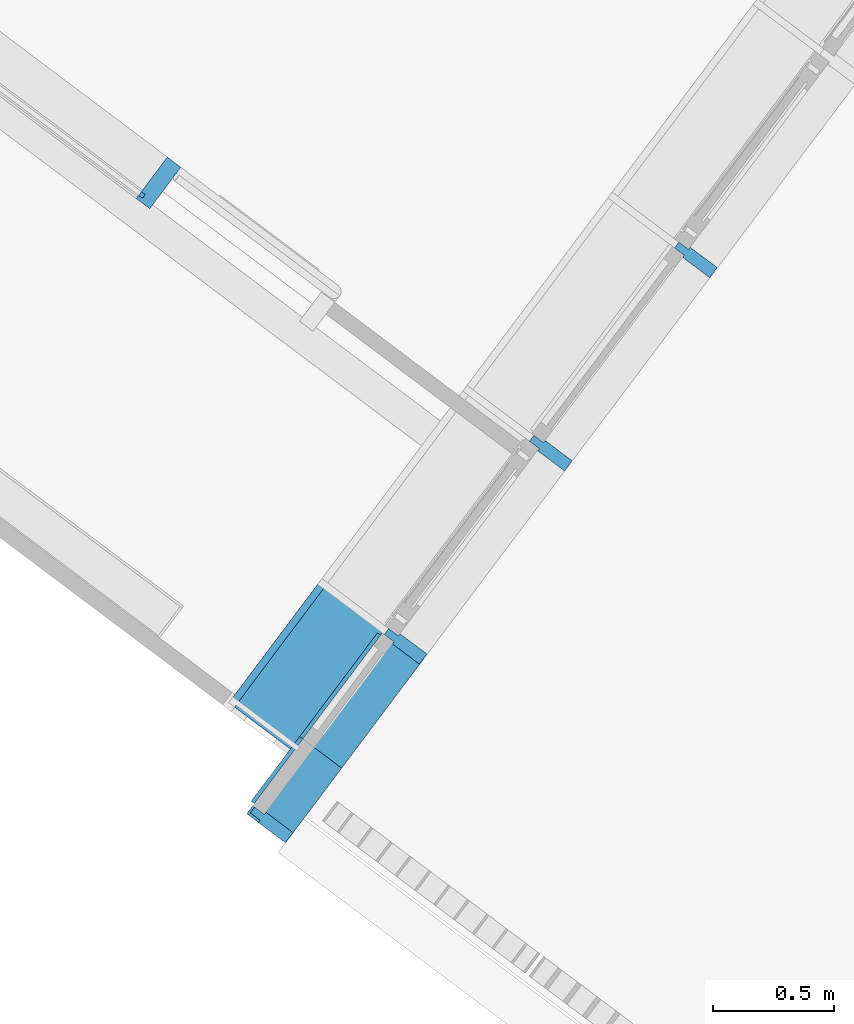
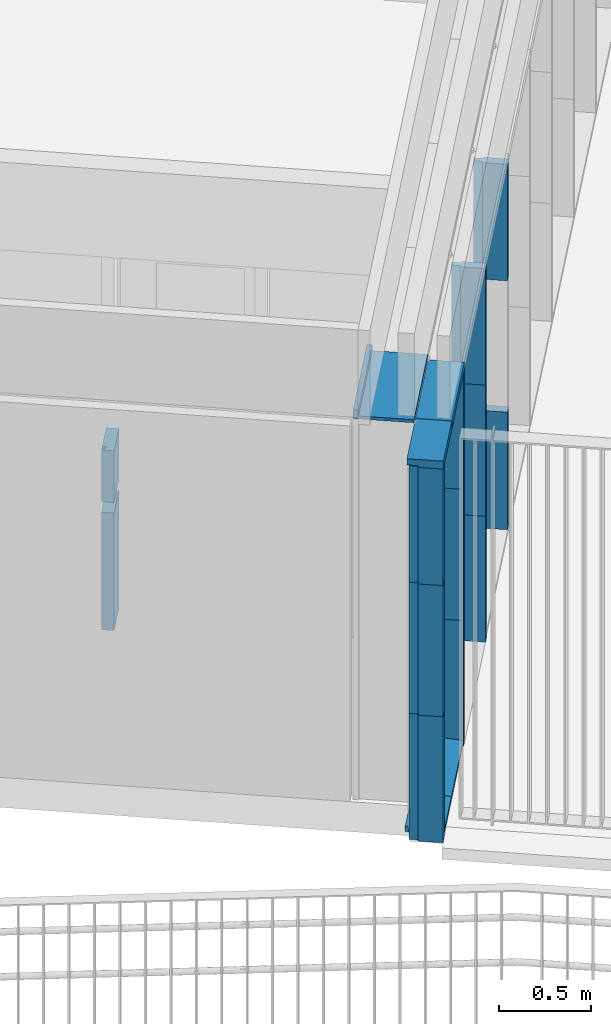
# One storey, part 80 of 243: 18 members, 3 elements without a shape of their own.
"""IFC2X3 building model written with IfcOpenShell, lengths in metres."""

from ifc_helpers import new_model, entity, si_unit, converted_unit, derived_unit, direction, frame, frame_2d, origin, place, context, subcontext, project, spatial, polyline, circle_curve, parameter, trimmed, segment, composite_curve, rectangle, outline, extrude, source, transform, mapped, material, type_object, type_shapes, element, aggregate, save


model = new_model("IFC2X3")

# Units and contexts
model_context = context("Model", 3, precision=1e-05, world=origin(), true_north=direction((6.123031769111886e-17, 1.0)))
body_context = subcontext(model_context, "Body", "Model", "MODEL_VIEW")
ifc_project = project(units=[si_unit("LENGTHUNIT", "METRE"), si_unit("AREAUNIT", "SQUARE_METRE"), si_unit("VOLUMEUNIT", "CUBIC_METRE"), converted_unit("PLANEANGLEUNIT", "DEGREE", entity("IfcRatioMeasure", 0.017453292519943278), si_unit("PLANEANGLEUNIT", "RADIAN"), dimensions=[0, 0, 0, 0, 0, 0, 0]), si_unit("MASSUNIT", "GRAM", prefix="KILO"), derived_unit("MASSDENSITYUNIT", [(si_unit("MASSUNIT", "GRAM", prefix="KILO"), 1), (si_unit("LENGTHUNIT", "METRE"), -3)]), derived_unit("IONCONCENTRATIONUNIT", [(si_unit("MASSUNIT", "GRAM", prefix="KILO"), 1), (si_unit("LENGTHUNIT", "METRE"), -3)]), derived_unit("MOMENTOFINERTIAUNIT", [(si_unit("LENGTHUNIT", "METRE"), 4)]), si_unit("TIMEUNIT", "SECOND"), si_unit("FREQUENCYUNIT", "HERTZ"), si_unit("THERMODYNAMICTEMPERATUREUNIT", "DEGREE_CELSIUS"), derived_unit("THERMALTRANSMITTANCEUNIT", [(si_unit("MASSUNIT", "GRAM", prefix="KILO"), 1), (si_unit("THERMODYNAMICTEMPERATUREUNIT", "KELVIN"), -1), (si_unit("TIMEUNIT", "SECOND"), -3)]), derived_unit("THERMALCONDUCTANCEUNIT", [(si_unit("MASSUNIT", "GRAM", prefix="KILO"), 1), (si_unit("THERMODYNAMICTEMPERATUREUNIT", "KELVIN"), -1), (si_unit("TIMEUNIT", "SECOND"), -3), (si_unit("LENGTHUNIT", "METRE"), 1)]), derived_unit("VOLUMETRICFLOWRATEUNIT", [(si_unit("LENGTHUNIT", "METRE"), 3), (si_unit("TIMEUNIT", "SECOND"), -1)]), derived_unit("MASSFLOWRATEUNIT", [(si_unit("MASSUNIT", "GRAM", prefix="KILO"), 1), (si_unit("TIMEUNIT", "SECOND"), -1)]), derived_unit("ROTATIONALFREQUENCYUNIT", [(si_unit("TIMEUNIT", "SECOND"), -1)]), si_unit("ELECTRICCURRENTUNIT", "AMPERE"), si_unit("ELECTRICVOLTAGEUNIT", "VOLT"), si_unit("POWERUNIT", "WATT"), si_unit("FORCEUNIT", "NEWTON", prefix="KILO"), si_unit("ILLUMINANCEUNIT", "LUX"), si_unit("LUMINOUSFLUXUNIT", "LUMEN"), si_unit("LUMINOUSINTENSITYUNIT", "CANDELA"), derived_unit("USERDEFINED", [(si_unit("MASSUNIT", "GRAM", prefix="KILO"), -1), (si_unit("LENGTHUNIT", "METRE"), -2), (si_unit("TIMEUNIT", "SECOND"), 3), (si_unit("LUMINOUSFLUXUNIT", "LUMEN"), 1)]), derived_unit("USERDEFINED", [(si_unit("MASSUNIT", "GRAM", prefix="KILO"), 1), (si_unit("TIMEUNIT", "SECOND"), -3), (si_unit("LENGTHUNIT", "METRE"), 3), (si_unit("ELECTRICCURRENTUNIT", "AMPERE"), -2)]), derived_unit("SOUNDPOWERUNIT", [(si_unit("MASSUNIT", "GRAM", prefix="KILO"), 1), (si_unit("TIMEUNIT", "SECOND"), -3), (si_unit("LENGTHUNIT", "METRE"), 2)]), derived_unit("SOUNDPRESSUREUNIT", [(si_unit("MASSUNIT", "GRAM", prefix="KILO"), 1), (si_unit("LENGTHUNIT", "METRE"), -1), (si_unit("TIMEUNIT", "SECOND"), -2)]), derived_unit("LINEARVELOCITYUNIT", [(si_unit("LENGTHUNIT", "METRE"), 1), (si_unit("TIMEUNIT", "SECOND"), -1)]), si_unit("PRESSUREUNIT", "PASCAL"), derived_unit("USERDEFINED", [(si_unit("MASSUNIT", "GRAM", prefix="KILO"), 1), (si_unit("LENGTHUNIT", "METRE"), -2), (si_unit("TIMEUNIT", "SECOND"), -2)]), derived_unit("LINEARFORCEUNIT", [(si_unit("MASSUNIT", "GRAM", prefix="KILO"), 1), (si_unit("TIMEUNIT", "SECOND"), -2)]), derived_unit("PLANARFORCEUNIT", [(si_unit("MASSUNIT", "GRAM", prefix="KILO"), 1), (si_unit("LENGTHUNIT", "METRE"), -1), (si_unit("TIMEUNIT", "SECOND"), -2)]), derived_unit("SPECIFICHEATCAPACITYUNIT", [(si_unit("THERMODYNAMICTEMPERATUREUNIT", "KELVIN"), -1), (si_unit("LENGTHUNIT", "METRE"), 2), (si_unit("TIMEUNIT", "SECOND"), -2)]), derived_unit("HEATINGVALUEUNIT", [(si_unit("LENGTHUNIT", "METRE"), 2), (si_unit("TIMEUNIT", "SECOND"), -2)]), derived_unit("VAPORPERMEABILITYUNIT", [(si_unit("LENGTHUNIT", "METRE"), -1), (si_unit("TIMEUNIT", "SECOND"), 1)]), derived_unit("DYNAMICVISCOSITYUNIT", [(si_unit("MASSUNIT", "GRAM", prefix="KILO"), 1), (si_unit("TIMEUNIT", "SECOND"), -1), (si_unit("LENGTHUNIT", "METRE"), -1)]), derived_unit("THERMALEXPANSIONCOEFFICIENTUNIT", [(si_unit("THERMODYNAMICTEMPERATUREUNIT", "KELVIN"), -1)]), derived_unit("MODULUSOFELASTICITYUNIT", [(si_unit("MASSUNIT", "GRAM", prefix="KILO"), 1), (si_unit("LENGTHUNIT", "METRE"), -1), (si_unit("TIMEUNIT", "SECOND"), -2)]), derived_unit("ISOTHERMALMOISTURECAPACITYUNIT", [(si_unit("LENGTHUNIT", "METRE"), 3), (si_unit("MASSUNIT", "GRAM", prefix="KILO"), -1)]), derived_unit("MOISTUREDIFFUSIVITYUNIT", [(si_unit("TIMEUNIT", "SECOND"), -1), (si_unit("LENGTHUNIT", "METRE"), 2)])], contexts=[model_context])

# Site, building, storey
site_placement = place(None, frame((0.0, 0.0, 235.0), z_axis=(0.0, 0.0, 1.0), x_axis=(-0.7996477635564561, 0.6004693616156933, 0.0)))
site = spatial("IfcSite", under=ifc_project, at=site_placement, Name="Default", CompositionType="ELEMENT")
building_placement = place(site_placement, origin())
building = spatial("IfcBuilding", under=site, at=building_placement, CompositionType="ELEMENT")
storey_placement = place(building_placement, origin())
storey = spatial("IfcBuildingStorey", under=building, at=storey_placement, Name="P0- Escola", CompositionType="ELEMENT", Elevation=0.0)

# Curtain wall, members
curtain_wall_type_1 = type_object("IfcCurtainWallType", Name="Muro cortina:MC- INT- k1", PredefinedType="NOTDEFINED")
curtain_wall_1_placement = place(storey_placement, origin())
curtain_wall_1 = element("IfcCurtainWall", 1, at=curtain_wall_1_placement, inside=storey, type_object=curtain_wall_type_1, Name="Muro cortina:MC- INT- k1", ObjectType="Muro cortina:MC- INT- k1")
ifc_material_1 = material(Name="_Fusta massisa- T1")
member_type_1 = type_object("IfcMemberType", Name="Montante rectangular:MC- Fusta- 21,4x7 cm- Neutre- Bany infantil", PredefinedType="MULLION", material=ifc_material_1)
shared_shape_1 = source(origin(), body_context, "Body", "SweptSolid", [
    extrude(rectangle(XDim=0.21400000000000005, YDim=0.06999999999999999, at=frame_2d((-5.551115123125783e-17, 0.0), x_axis=(1.0, 0.0))), frame((0.0, -0.08099999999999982, -0.7849999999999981), z_axis=(0.0, 0.0, 1.0), x_axis=(0.0, -1.0, 0.0)), (0.0, 0.0, 1.0), 0.7849999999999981),
])
type_shapes(member_type_1, [shared_shape_1])
member_1_placement = place(curtain_wall_1_placement, frame((7.804147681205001, -19.827191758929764, 0.0), z_axis=(0.0, 0.0, -1.0), x_axis=(-1.0, 0.0, 0.0)))
member_1 = element("IfcMember", 2, at=member_1_placement, type_object=member_type_1, material=ifc_material_1, Name="Montante rectangular:MC- Fusta- 21,4x7 cm- Neutre- Bany infantil", ObjectType="Montante rectangular:MC- Fusta- 21,4x7 cm- Neutre- Bany infantil", context=body_context, shape_type="MappedRepresentation", body=[
    mapped(shared_shape_1, transform((0.0, 0.0, 0.0), scale=1.0)),
])
member_type_2 = type_object("IfcMemberType", Name="Montante rectangular:MC- Fusta- 21,4x7 cm- Esquerra- Bany infantil", PredefinedType="MULLION", material=ifc_material_1)
shared_shape_2 = source(origin(), body_context, "Body", "SweptSolid", [
    extrude(outline(polyline([(-0.06649999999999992, -0.02249999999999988), (-0.05049999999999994, -0.02249999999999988), (-0.050499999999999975, -0.0024999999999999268), (-0.030499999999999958, -0.002499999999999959), (-0.030499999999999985, -0.022499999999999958), (0.14749999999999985, -0.022500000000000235), (0.14749999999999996, 0.04749999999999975), (-0.06650000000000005, 0.04750000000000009), (-0.06649999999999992, -0.02249999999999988)])), frame((-0.012500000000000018, -0.04049999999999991, -0.3450000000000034), z_axis=(0.0, 0.0, 1.0), x_axis=(0.0, -1.0, 0.0)), (0.0, 0.0, 1.0), 0.34500000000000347),
])
type_shapes(member_type_2, [shared_shape_2])
member_2_placement = place(curtain_wall_1_placement, frame((7.804147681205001, -19.827191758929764, 0.8549999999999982), z_axis=(0.0, 0.0, -1.0), x_axis=(-1.0, 0.0, 0.0)))
member_2 = element("IfcMember", 3, at=member_2_placement, type_object=member_type_2, material=ifc_material_1, Name="Montante rectangular:MC- Fusta- 21,4x7 cm- Esquerra- Bany infantil", ObjectType="Montante rectangular:MC- Fusta- 21,4x7 cm- Esquerra- Bany infantil", context=body_context, shape_type="MappedRepresentation", body=[
    mapped(shared_shape_2, transform((0.0, 0.0, 0.0), scale=1.0)),
])
aggregate(curtain_wall_1, [member_1, member_2])

curtain_wall_type_2 = type_object("IfcCurtainWallType", Name="Muro cortina:MC- EXT- MC2", PredefinedType="NOTDEFINED")
curtain_wall_2_placement = place(storey_placement, origin())
curtain_wall_2 = element("IfcCurtainWall", 4, at=curtain_wall_2_placement, inside=storey, type_object=curtain_wall_type_2, Name="Muro cortina:MC- EXT- MC2", ObjectType="Muro cortina:MC- EXT- MC2")
ifc_material_2 = material(Name="_Alumini- T1- Perfil")
member_type_3 = type_object("IfcMemberType", Name="Montante rectangular:MC- Alu- 140x52,5 cm- Fa patis- Superior", PredefinedType="MULLION", material=ifc_material_2)
shared_shape_3 = source(origin(), body_context, "Body", "SweptSolid", [
    extrude(outline(polyline([(-0.11366666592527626, -0.021249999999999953), (0.026333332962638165, -0.021249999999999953), (0.026333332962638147, -0.010000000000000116), (0.0873333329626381, -0.010000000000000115), (0.0873333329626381, 0.03125000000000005), (-0.11366666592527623, 0.031250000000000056), (-0.11366666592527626, -0.021249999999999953)])), frame((-0.031250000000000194, 0.02733333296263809, -0.5633345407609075), z_axis=(0.0, 0.0, 1.0), x_axis=(0.0, -1.0, 0.0)), (0.0, 0.0, 1.0), 0.5633345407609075),
])
type_shapes(member_type_3, [shared_shape_3])
member_3_placement = place(curtain_wall_2_placement, frame((5.885147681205, -18.990191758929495, 2.525), z_axis=(0.0, -1.0, 0.0), x_axis=(0.0, 0.0, 1.0)))
member_3 = element("IfcMember", 5, at=member_3_placement, type_object=member_type_3, material=ifc_material_2, Name="Montante rectangular:MC- Alu- 140x52,5 cm- Fa patis- Superior", ObjectType="Montante rectangular:MC- Alu- 140x52,5 cm- Fa patis- Superior", context=body_context, shape_type="MappedRepresentation", body=[
    mapped(shared_shape_3, transform((0.0, 0.0, 0.0), scale=1.0)),
])
member_type_4 = type_object("IfcMemberType", Name="Montante rectangular:MC- Alu- 140x52,5 cm- Fa patis- Centre", PredefinedType="MULLION", material=ifc_material_2)
shared_shape_4 = source(origin(), body_context, "Body", "SweptSolid", [
    extrude(outline(polyline([(-0.11699999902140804, -0.026250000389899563), (0.021999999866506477, -0.026250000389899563), (0.021999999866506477, -0.01500000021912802), (0.07299999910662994, -0.01500000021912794), (0.07299999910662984, 0.015000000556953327), (0.02200000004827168, 0.015000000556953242), (0.02200000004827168, 0.026250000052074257), (-0.11699999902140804, 0.026250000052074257), (-0.11699999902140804, -0.026250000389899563)])), frame((0.0, 0.022999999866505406, -0.839999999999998), z_axis=(0.0, 0.0, 1.0), x_axis=(0.0, -1.0, 0.0)), (0.0, 0.0, 1.0), 0.839999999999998),
])
type_shapes(member_type_4, [shared_shape_4])
member_4_placement = place(curtain_wall_2_placement, frame((5.885147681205, -18.990191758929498, -0.02), z_axis=(0.0, 0.0, -1.0), x_axis=(0.0, -1.0, 0.0)))
member_4 = element("IfcMember", 6, at=member_4_placement, type_object=member_type_4, material=ifc_material_2, Name="Montante rectangular:MC- Alu- 140x52,5 cm- Fa patis- Centre", ObjectType="Montante rectangular:MC- Alu- 140x52,5 cm- Fa patis- Centre", context=body_context, shape_type="MappedRepresentation", body=[
    mapped(shared_shape_4, transform((0.0, 0.0, 0.0), scale=1.0)),
])
member_5_placement = place(curtain_wall_2_placement, frame((5.8851476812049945, -19.990191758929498, -0.02), z_axis=(0.0, 0.0, -1.0), x_axis=(0.0, -1.0, 0.0)))
member_5 = element("IfcMember", 7, at=member_5_placement, type_object=member_type_4, material=ifc_material_2, Name="Montante rectangular:MC- Alu- 140x52,5 cm- Fa patis- Centre", ObjectType="Montante rectangular:MC- Alu- 140x52,5 cm- Fa patis- Centre", context=body_context, shape_type="MappedRepresentation", body=[
    mapped(shared_shape_4, transform((0.0, 0.0, 0.0), scale=1.0)),
])
member_type_5 = type_object("IfcMemberType", Name="Montante rectangular:MC- Alu- 140x52,5 cm- Fa patis- Centre", PredefinedType="MULLION", material=ifc_material_2)
shared_shape_5 = source(origin(), body_context, "Body", "SweptSolid", [
    extrude(outline(polyline([(-0.11699999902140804, -0.026250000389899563), (0.021999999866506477, -0.026250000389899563), (0.021999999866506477, -0.01500000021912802), (0.07299999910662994, -0.01500000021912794), (0.07299999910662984, 0.015000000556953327), (0.02200000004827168, 0.015000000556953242), (0.02200000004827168, 0.026250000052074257), (-0.11699999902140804, 0.026250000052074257), (-0.11699999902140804, -0.026250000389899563)])), frame((0.0, 0.022999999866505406, -0.7849999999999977), z_axis=(0.0, 0.0, 1.0), x_axis=(0.0, -1.0, 0.0)), (0.0, 0.0, 1.0), 0.7849999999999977),
])
type_shapes(member_type_5, [shared_shape_5])
member_6_placement = place(curtain_wall_2_placement, frame((5.885147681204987, -20.990191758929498, 0.035000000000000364), z_axis=(0.0, 0.0, -1.0), x_axis=(0.0, -1.0, 0.0)))
member_6 = element("IfcMember", 8, at=member_6_placement, type_object=member_type_5, material=ifc_material_2, Name="Montante rectangular:MC- Alu- 140x52,5 cm- Fa patis- Centre", ObjectType="Montante rectangular:MC- Alu- 140x52,5 cm- Fa patis- Centre", context=body_context, shape_type="MappedRepresentation", body=[
    mapped(shared_shape_5, transform((0.0, 0.0, 0.0), scale=1.0)),
])
member_type_6 = type_object("IfcMemberType", Name="Montante rectangular:MC- Alu- 140x52,5 cm- Fa patis- inferior", PredefinedType="MULLION", material=ifc_material_2)
shared_shape_6 = source(origin(), body_context, "Body", "SweptSolid", [
    extrude(outline(composite_curve([segment(polyline([(0.12786724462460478, -0.025867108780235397), (0.14416724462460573, -0.0258671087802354)]), True, "CONTINUOUS"), segment(polyline([(0.14416724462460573, -0.0258671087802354), (0.14416724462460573, 0.009132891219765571)]), True, "CONTINUOUS"), segment(polyline([(0.14416724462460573, 0.009132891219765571), (0.06786724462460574, 0.009132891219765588)]), True, "CONTINUOUS"), segment(polyline([(0.06786724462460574, 0.009132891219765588), (0.06786724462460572, -0.021159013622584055)]), True, "CONTINUOUS"), segment(polyline([(0.06786724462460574, -0.021159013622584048), (-0.030132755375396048, -0.012332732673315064)]), True, "CONTINUOUS"), segment(polyline([(-0.030132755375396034, -0.012332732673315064), (-0.030132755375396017, 0.027132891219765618)]), True, "CONTINUOUS"), segment(polyline([(-0.03013275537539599, 0.027132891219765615), (-0.0021327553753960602, 0.027132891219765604)]), True, "CONTINUOUS"), segment(polyline([(-0.0021327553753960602, 0.027132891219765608), (-0.002132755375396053, 0.0291328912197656)]), True, "CONTINUOUS"), segment(polyline([(-0.002132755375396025, 0.0291328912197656), (-0.03213275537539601, 0.02913289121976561)]), True, "CONTINUOUS"), segment(polyline([(-0.03213275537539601, 0.02913289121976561), (-0.03213275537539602, -0.012152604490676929)]), True, "CONTINUOUS"), segment(polyline([(-0.03213275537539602, -0.012152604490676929), (-0.07013275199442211, -0.008730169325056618)]), True, "CONTINUOUS"), segment(polyline([(-0.07013275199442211, -0.008730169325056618), (-0.07013275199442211, 0.0057663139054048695)]), True, "CONTINUOUS"), segment(trimmed(circle_curve(frame_2d((-0.06963275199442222, 0.005766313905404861), x_axis=(-1.0, 0.0)), 0.0004999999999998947), [parameter(270.0000000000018)], [parameter(0.0)], True, "PARAMETER"), False, "CONTINUOUS"), segment(polyline([(-0.06963275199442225, 0.006266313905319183), (-0.06213275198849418, 0.00626631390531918)]), True, "CONTINUOUS"), segment(polyline([(-0.06213275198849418, 0.00626631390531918), (-0.062132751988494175, 0.008266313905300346)]), True, "CONTINUOUS"), segment(polyline([(-0.062132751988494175, 0.008266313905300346), (-0.07013275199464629, 0.008266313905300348)]), True, "CONTINUOUS"), segment(trimmed(circle_curve(frame_2d((-0.07013275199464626, 0.0062663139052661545), x_axis=(0.0, 1.0)), 0.0020000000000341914), [parameter(0.0)], [parameter(90.00000002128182)], True, "PARAMETER"), True, "CONTINUOUS"), segment(polyline([(-0.07213275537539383, 0.006266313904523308), (-0.07213275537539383, -0.008730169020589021)]), True, "CONTINUOUS"), segment(trimmed(circle_curve(frame_2d((-0.07013275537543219, -0.008730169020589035), x_axis=(-1.0, 0.0)), 0.001999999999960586), [parameter(0.0)], [parameter(84.85359280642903)], True, "PARAMETER"), True, "CONTINUOUS"), segment(polyline([(-0.07031215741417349, -0.010722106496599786), (0.06786724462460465, -0.02316710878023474)]), True, "CONTINUOUS"), segment(polyline([(0.06786724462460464, -0.023167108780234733), (0.12786724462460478, -0.02316710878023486)]), True, "CONTINUOUS"), segment(polyline([(0.12786724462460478, -0.02316710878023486), (0.12786724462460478, -0.025867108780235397)]), True, "CONTINUOUS")], self_intersect=False)), frame((-0.02913289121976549, 0.06786724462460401, -0.33416726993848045), z_axis=(0.0, 0.0, 1.0), x_axis=(0.0, -1.0, 0.0)), (0.0, 0.0, 1.0), 0.3341672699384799),
])
type_shapes(member_type_6, [shared_shape_6])
member_7_placement = place(curtain_wall_2_placement, frame((5.885147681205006, -18.092689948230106, -0.019999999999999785), z_axis=(0.0, 1.0, 0.0), x_axis=(0.0, 0.0, -1.0)))
member_7 = element("IfcMember", 9, at=member_7_placement, type_object=member_type_6, material=ifc_material_2, Name="Montante rectangular:MC- Alu- 140x52,5 cm- Fa patis- inferior", ObjectType="Montante rectangular:MC- Alu- 140x52,5 cm- Fa patis- inferior", context=body_context, shape_type="MappedRepresentation", body=[
    mapped(shared_shape_6, transform((0.0, 0.0, 0.0), scale=1.0)),
])
member_type_7 = type_object("IfcMemberType", Name="Montante rectangular:MC- Alu- 140x52,5 cm- Fa patis- Centre", PredefinedType="MULLION", material=ifc_material_2)
shared_shape_7 = source(origin(), body_context, "Body", "SweptSolid", [
    extrude(outline(polyline([(-0.11699999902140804, -0.026250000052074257), (0.02200000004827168, -0.026250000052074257), (0.02200000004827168, -0.015000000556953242), (0.07299999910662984, -0.015000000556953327), (0.07299999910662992, 0.01500000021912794), (0.021999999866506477, 0.01500000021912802), (0.021999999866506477, 0.026250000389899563), (-0.11699999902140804, 0.026250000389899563), (-0.11699999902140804, -0.026250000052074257)])), frame((-0.026250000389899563, 0.022999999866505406, -0.7774999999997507), z_axis=(0.0, 0.0, 1.0), x_axis=(0.0, -1.0, 0.0)), (0.0, 0.0, 1.0), 0.7774999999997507),
])
type_shapes(member_type_7, [shared_shape_7])
member_8_placement = place(curtain_wall_2_placement, frame((5.885147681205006, -18.040189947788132, 2.4725), z_axis=(0.0, 0.0, 1.0), x_axis=(0.0, 1.0, 0.0)))
member_8 = element("IfcMember", 10, at=member_8_placement, type_object=member_type_7, material=ifc_material_2, Name="Montante rectangular:MC- Alu- 140x52,5 cm- Fa patis- Centre", ObjectType="Montante rectangular:MC- Alu- 140x52,5 cm- Fa patis- Centre", context=body_context, shape_type="MappedRepresentation", body=[
    mapped(shared_shape_7, transform((0.0, 0.0, 0.0), scale=1.0)),
])
member_type_8 = type_object("IfcMemberType", Name="Montante rectangular:MC- Alu- 140x52,5 cm- Fa patis- Superior", PredefinedType="MULLION", material=ifc_material_2)
shared_shape_8 = source(origin(), body_context, "Body", "SweptSolid", [
    extrude(outline(polyline([(-0.11366666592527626, -0.021249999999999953), (0.026333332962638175, -0.021249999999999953), (0.026333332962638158, -0.010000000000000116), (0.0873333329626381, -0.010000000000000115), (0.0873333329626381, 0.03125000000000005), (-0.11366666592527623, 0.031250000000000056), (-0.11366666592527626, -0.021249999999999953)])), frame((-0.031250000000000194, 0.0273333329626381, -0.38666727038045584), z_axis=(0.0, 0.0, 1.0), x_axis=(0.0, -1.0, 0.0)), (0.0, 0.0, 1.0), 0.38666727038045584),
])
type_shapes(member_type_8, [shared_shape_8])
member_9_placement = place(curtain_wall_2_placement, frame((5.885147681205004, -18.426857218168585, 2.525), z_axis=(0.0, -1.0, 0.0), x_axis=(0.0, 0.0, 1.0)))
member_9 = element("IfcMember", 11, at=member_9_placement, type_object=member_type_8, material=ifc_material_2, Name="Montante rectangular:MC- Alu- 140x52,5 cm- Fa patis- Superior", ObjectType="Montante rectangular:MC- Alu- 140x52,5 cm- Fa patis- Superior", context=body_context, shape_type="MappedRepresentation", body=[
    mapped(shared_shape_8, transform((0.0, 0.0, 0.0), scale=1.0)),
])
member_type_9 = type_object("IfcMemberType", Name="Montante rectangular:MC- Alu- 140x52,5 cm- Fa patis- inferior", PredefinedType="MULLION", material=ifc_material_2)
shared_shape_9 = source(origin(), body_context, "Body", "SweptSolid", [
    extrude(outline(composite_curve([segment(polyline([(0.1278672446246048, -0.025867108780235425), (0.14416724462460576, -0.025867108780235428)]), True, "CONTINUOUS"), segment(polyline([(0.14416724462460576, -0.025867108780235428), (0.1441672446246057, 0.009132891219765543)]), True, "CONTINUOUS"), segment(polyline([(0.1441672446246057, 0.009132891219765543), (0.06786724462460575, 0.00913289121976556)]), True, "CONTINUOUS"), segment(polyline([(0.06786724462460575, 0.00913289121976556), (0.06786724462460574, -0.021159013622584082)]), True, "CONTINUOUS"), segment(polyline([(0.06786724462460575, -0.021159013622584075), (-0.030132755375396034, -0.012332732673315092)]), True, "CONTINUOUS"), segment(polyline([(-0.03013275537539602, -0.012332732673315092), (-0.030132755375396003, 0.02713289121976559)]), True, "CONTINUOUS"), segment(polyline([(-0.030132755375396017, 0.027132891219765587), (-0.0021327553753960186, 0.027132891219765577)]), True, "CONTINUOUS"), segment(polyline([(-0.0021327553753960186, 0.02713289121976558), (-0.0021327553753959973, 0.02913289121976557)]), True, "CONTINUOUS"), segment(polyline([(-0.0021327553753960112, 0.02913289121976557), (-0.032132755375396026, 0.029132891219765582)]), True, "CONTINUOUS"), segment(polyline([(-0.032132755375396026, 0.029132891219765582), (-0.03213275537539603, -0.012152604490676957)]), True, "CONTINUOUS"), segment(polyline([(-0.03213275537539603, -0.012152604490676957), (-0.0701327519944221, -0.008730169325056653)]), True, "CONTINUOUS"), segment(polyline([(-0.0701327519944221, -0.008730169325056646), (-0.0701327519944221, 0.005766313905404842)]), True, "CONTINUOUS"), segment(trimmed(circle_curve(frame_2d((-0.0696327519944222, 0.00576631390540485), x_axis=(-1.0, 0.0)), 0.0004999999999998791), [parameter(269.999999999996)], [parameter(0.0)], True, "PARAMETER"), False, "CONTINUOUS"), segment(polyline([(-0.0696327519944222, 0.0062663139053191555), (-0.06213275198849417, 0.006266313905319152)]), True, "CONTINUOUS"), segment(polyline([(-0.06213275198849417, 0.006266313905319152), (-0.06213275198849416, 0.008266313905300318)]), True, "CONTINUOUS"), segment(polyline([(-0.06213275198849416, 0.008266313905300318), (-0.07013275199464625, 0.00826631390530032)]), True, "CONTINUOUS"), segment(trimmed(circle_curve(frame_2d((-0.07013275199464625, 0.006266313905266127), x_axis=(0.0, 1.0)), 0.0020000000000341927), [parameter(0.0)], [parameter(90.00000002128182)], True, "PARAMETER"), True, "CONTINUOUS"), segment(polyline([(-0.07213275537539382, 0.00626631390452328), (-0.07213275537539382, -0.008730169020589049)]), True, "CONTINUOUS"), segment(trimmed(circle_curve(frame_2d((-0.07013275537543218, -0.00873016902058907), x_axis=(-1.0, 0.0)), 0.001999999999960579), [parameter(0.0)], [parameter(84.85359280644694)], True, "PARAMETER"), True, "CONTINUOUS"), segment(polyline([(-0.07031215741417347, -0.010722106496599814), (0.06786724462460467, -0.023167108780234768)]), True, "CONTINUOUS"), segment(polyline([(0.06786724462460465, -0.02316710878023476), (0.12786724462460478, -0.02316710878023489)]), True, "CONTINUOUS"), segment(polyline([(0.12786724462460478, -0.02316710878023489), (0.1278672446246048, -0.025867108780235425)]), True, "CONTINUOUS")], self_intersect=False)), frame((-0.029132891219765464, 0.06786724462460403, -0.5370845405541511), z_axis=(0.0, 0.0, 1.0), x_axis=(0.0, -1.0, 0.0)), (0.0, 0.0, 1.0), 0.5370845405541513),
])
type_shapes(member_type_9, [shared_shape_9])
member_10_placement = place(curtain_wall_2_placement, frame((5.885147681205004, -18.426857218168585, -0.01999999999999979), z_axis=(0.0, 1.0, 0.0), x_axis=(0.0, 0.0, -1.0)))
member_10 = element("IfcMember", 12, at=member_10_placement, type_object=member_type_9, material=ifc_material_2, Name="Montante rectangular:MC- Alu- 140x52,5 cm- Fa patis- inferior", ObjectType="Montante rectangular:MC- Alu- 140x52,5 cm- Fa patis- inferior", context=body_context, shape_type="MappedRepresentation", body=[
    mapped(shared_shape_9, transform((0.0, 0.0, 0.0), scale=1.0)),
])
member_type_10 = type_object("IfcMemberType", Name="Montante rectangular:MC- Alu- 140x52,5 cm- Fa patis- Centre", PredefinedType="MULLION", material=ifc_material_2)
shared_shape_10 = source(origin(), body_context, "Body", "SweptSolid", [
    extrude(outline(polyline([(-0.11699999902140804, -0.026250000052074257), (0.02200000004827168, -0.026250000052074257), (0.02200000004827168, -0.015000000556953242), (0.07299999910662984, -0.015000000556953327), (0.07299999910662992, 0.01500000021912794), (0.021999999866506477, 0.01500000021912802), (0.021999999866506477, 0.026250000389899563), (-0.11699999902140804, 0.026250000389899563), (-0.11699999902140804, -0.026250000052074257)])), frame((-0.026250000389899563, 0.022999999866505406, -0.8750000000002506), z_axis=(0.0, 0.0, 1.0), x_axis=(0.0, -1.0, 0.0)), (0.0, 0.0, 1.0), 0.8750000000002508),
])
type_shapes(member_type_10, [shared_shape_10])
member_11_placement = place(curtain_wall_2_placement, frame((5.885147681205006, -18.040189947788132, 1.695000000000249), z_axis=(0.0, 0.0, 1.0), x_axis=(0.0, 1.0, 0.0)))
member_11 = element("IfcMember", 13, at=member_11_placement, type_object=member_type_10, material=ifc_material_2, Name="Montante rectangular:MC- Alu- 140x52,5 cm- Fa patis- Centre", ObjectType="Montante rectangular:MC- Alu- 140x52,5 cm- Fa patis- Centre", context=body_context, shape_type="MappedRepresentation", body=[
    mapped(shared_shape_10, transform((0.0, 0.0, 0.0), scale=1.0)),
])
member_type_11 = type_object("IfcMemberType", Name="Montante rectangular:MC- Alu- 140x52,5 cm- Fa patis- Centre", PredefinedType="MULLION", material=ifc_material_2)
shared_shape_11 = source(origin(), body_context, "Body", "SweptSolid", [
    extrude(outline(polyline([(-0.11699999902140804, -0.026250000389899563), (0.021999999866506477, -0.026250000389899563), (0.021999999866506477, -0.01500000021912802), (0.07299999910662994, -0.01500000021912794), (0.07299999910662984, 0.015000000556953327), (0.02200000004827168, 0.015000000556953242), (0.02200000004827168, 0.026250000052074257), (-0.11699999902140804, 0.026250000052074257), (-0.11699999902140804, -0.026250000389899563)])), frame((0.0, 0.022999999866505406, -0.7774999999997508), z_axis=(0.0, 0.0, 1.0), x_axis=(0.0, -1.0, 0.0)), (0.0, 0.0, 1.0), 0.777499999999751),
])
type_shapes(member_type_11, [shared_shape_11])
member_12_placement = place(curtain_wall_2_placement, frame((5.885147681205, -18.990191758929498, 1.695000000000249), z_axis=(0.0, 0.0, -1.0), x_axis=(0.0, -1.0, 0.0)))
member_12 = element("IfcMember", 14, at=member_12_placement, type_object=member_type_11, material=ifc_material_2, Name="Montante rectangular:MC- Alu- 140x52,5 cm- Fa patis- Centre", ObjectType="Montante rectangular:MC- Alu- 140x52,5 cm- Fa patis- Centre", context=body_context, shape_type="MappedRepresentation", body=[
    mapped(shared_shape_11, transform((0.0, 0.0, 0.0), scale=1.0)),
])
member_13_placement = place(curtain_wall_2_placement, frame((5.8851476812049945, -19.990191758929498, 1.695000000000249), z_axis=(0.0, 0.0, -1.0), x_axis=(0.0, -1.0, 0.0)))
member_13 = element("IfcMember", 15, at=member_13_placement, type_object=member_type_11, material=ifc_material_2, Name="Montante rectangular:MC- Alu- 140x52,5 cm- Fa patis- Centre", ObjectType="Montante rectangular:MC- Alu- 140x52,5 cm- Fa patis- Centre", context=body_context, shape_type="MappedRepresentation", body=[
    mapped(shared_shape_11, transform((0.0, 0.0, 0.0), scale=1.0)),
])
member_14_placement = place(curtain_wall_2_placement, frame((5.885147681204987, -20.990191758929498, 1.695000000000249), z_axis=(0.0, 0.0, -1.0), x_axis=(0.0, -1.0, 0.0)))
member_14 = element("IfcMember", 16, at=member_14_placement, type_object=member_type_11, material=ifc_material_2, Name="Montante rectangular:MC- Alu- 140x52,5 cm- Fa patis- Centre", ObjectType="Montante rectangular:MC- Alu- 140x52,5 cm- Fa patis- Centre", context=body_context, shape_type="MappedRepresentation", body=[
    mapped(shared_shape_11, transform((0.0, 0.0, 0.0), scale=1.0)),
])
member_type_12 = type_object("IfcMemberType", Name="Montante rectangular:MC- Alu- 140x52,5 cm- Fa patis- Centre", PredefinedType="MULLION", material=ifc_material_2)
shared_shape_12 = source(origin(), body_context, "Body", "SweptSolid", [
    extrude(outline(polyline([(-0.11699999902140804, -0.026250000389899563), (0.021999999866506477, -0.026250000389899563), (0.021999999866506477, -0.01500000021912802), (0.07299999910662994, -0.01500000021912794), (0.07299999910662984, 0.015000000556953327), (0.02200000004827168, 0.015000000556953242), (0.02200000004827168, 0.026250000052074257), (-0.11699999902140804, 0.026250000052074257), (-0.11699999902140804, -0.026250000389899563)])), frame((0.0, 0.022999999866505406, -0.8750000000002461), z_axis=(0.0, 0.0, 1.0), x_axis=(0.0, -1.0, 0.0)), (0.0, 0.0, 1.0), 0.8750000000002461),
])
type_shapes(member_type_12, [shared_shape_12])
member_15_placement = place(curtain_wall_2_placement, frame((5.885147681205, -18.990191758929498, 0.8199999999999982), z_axis=(0.0, 0.0, -1.0), x_axis=(0.0, -1.0, 0.0)))
member_15 = element("IfcMember", 17, at=member_15_placement, type_object=member_type_12, material=ifc_material_2, Name="Montante rectangular:MC- Alu- 140x52,5 cm- Fa patis- Centre", ObjectType="Montante rectangular:MC- Alu- 140x52,5 cm- Fa patis- Centre", context=body_context, shape_type="MappedRepresentation", body=[
    mapped(shared_shape_12, transform((0.0, 0.0, 0.0), scale=1.0)),
])
member_16_placement = place(curtain_wall_2_placement, frame((5.8851476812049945, -19.990191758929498, 0.8199999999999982), z_axis=(0.0, 0.0, -1.0), x_axis=(0.0, -1.0, 0.0)))
member_16 = element("IfcMember", 18, at=member_16_placement, type_object=member_type_12, material=ifc_material_2, Name="Montante rectangular:MC- Alu- 140x52,5 cm- Fa patis- Centre", ObjectType="Montante rectangular:MC- Alu- 140x52,5 cm- Fa patis- Centre", context=body_context, shape_type="MappedRepresentation", body=[
    mapped(shared_shape_12, transform((0.0, 0.0, 0.0), scale=1.0)),
])
member_type_13 = type_object("IfcMemberType", Name="Montante rectangular:MC- Alu- 140x52,5 cm- Fa patis- Centre", PredefinedType="MULLION", material=ifc_material_2)
shared_shape_13 = source(origin(), body_context, "Body", "SweptSolid", [
    extrude(outline(polyline([(-0.11699999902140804, -0.026250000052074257), (0.02200000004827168, -0.026250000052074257), (0.02200000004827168, -0.015000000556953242), (0.07299999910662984, -0.015000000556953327), (0.07299999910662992, 0.01500000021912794), (0.021999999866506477, 0.01500000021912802), (0.021999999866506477, 0.026250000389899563), (-0.11699999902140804, 0.026250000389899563), (-0.11699999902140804, -0.026250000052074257)])), frame((-0.026250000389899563, 0.022999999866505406, -0.839999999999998), z_axis=(0.0, 0.0, 1.0), x_axis=(0.0, -1.0, 0.0)), (0.0, 0.0, 1.0), 0.839999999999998),
])
type_shapes(member_type_13, [shared_shape_13])
member_17_placement = place(curtain_wall_2_placement, frame((5.885147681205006, -18.040189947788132, 0.8199999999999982), z_axis=(0.0, 0.0, 1.0), x_axis=(0.0, 1.0, 0.0)))
member_17 = element("IfcMember", 19, at=member_17_placement, type_object=member_type_13, material=ifc_material_2, Name="Montante rectangular:MC- Alu- 140x52,5 cm- Fa patis- Centre", ObjectType="Montante rectangular:MC- Alu- 140x52,5 cm- Fa patis- Centre", context=body_context, shape_type="MappedRepresentation", body=[
    mapped(shared_shape_13, transform((0.0, 0.0, 0.0), scale=1.0)),
])
aggregate(curtain_wall_2, [member_3, member_4, member_5, member_6, member_7, member_8, member_9, member_10, member_11, member_12, member_13, member_14, member_15, member_16, member_17])

# Curtain wall, member
curtain_wall_type_3 = type_object("IfcCurtainWallType", Name="Muro cortina:MC- INT- k7- Aules infantil", PredefinedType="NOTDEFINED")
curtain_wall_3_placement = place(storey_placement, origin())
curtain_wall_3 = element("IfcCurtainWall", 20, at=curtain_wall_3_placement, inside=storey, type_object=curtain_wall_type_3, Name="Muro cortina:MC- INT- k7- Aules infantil", ObjectType="Muro cortina:MC- INT- k7- Aules infantil")
member_type_14 = type_object("IfcMemberType", Name="Montante rectangular:MC- Fusta- 35x3 cm- Pati aules- Remat superior", PredefinedType="MULLION", material=ifc_material_1)
shared_shape_14 = source(origin(), body_context, "Body", "SweptSolid", [
    extrude(outline(polyline([(-0.21333333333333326, -0.02666666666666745), (0.1216666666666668, -0.02666666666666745), (0.12166666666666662, 0.03333333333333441), (0.09166666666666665, 0.03333333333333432), (0.09166666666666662, -0.006666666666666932), (-0.2133333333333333, -0.006666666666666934), (-0.21333333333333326, -0.02666666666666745)])), frame((-0.033333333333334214, 0.026666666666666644, -0.6275000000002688), z_axis=(0.0, 0.0, 1.0), x_axis=(0.0, -1.0, 0.0)), (0.0, 0.0, 1.0), 0.6275000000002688),
])
type_shapes(member_type_14, [shared_shape_14])
member_18_placement = place(curtain_wall_3_placement, frame((6.185147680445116, -18.990191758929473, 2.6), z_axis=(0.0, -1.0, 0.0), x_axis=(0.0, 0.0, 1.0)))
member_18 = element("IfcMember", 21, at=member_18_placement, type_object=member_type_14, material=ifc_material_1, Name="Montante rectangular:MC- Fusta- 35x3 cm- Pati aules- Remat superior", ObjectType="Montante rectangular:MC- Fusta- 35x3 cm- Pati aules- Remat superior", context=body_context, shape_type="MappedRepresentation", body=[
    mapped(shared_shape_14, transform((0.0, 0.0, 0.0), scale=1.0)),
])
aggregate(curtain_wall_3, [member_18])

save(model, "model.ifc")
